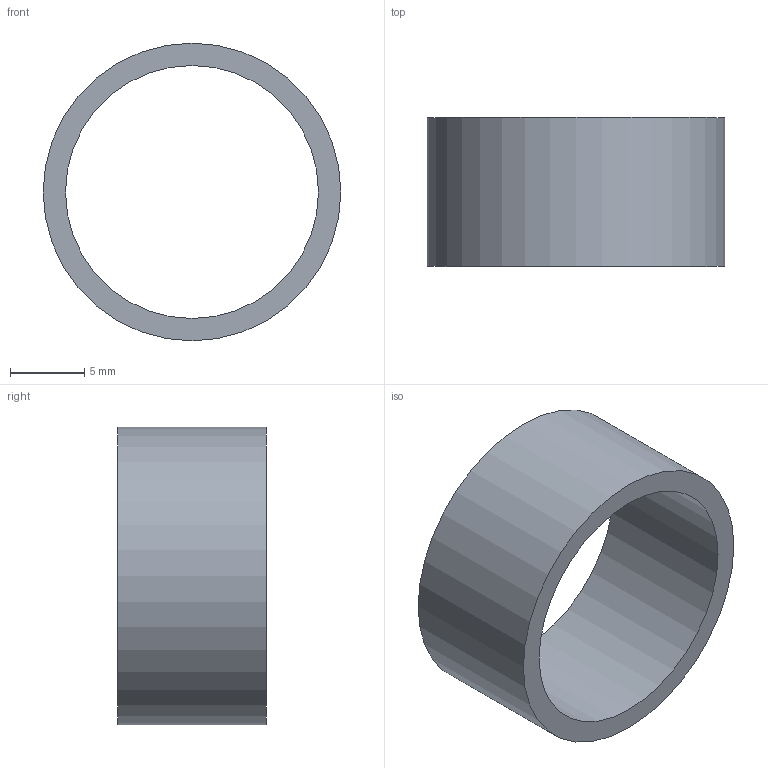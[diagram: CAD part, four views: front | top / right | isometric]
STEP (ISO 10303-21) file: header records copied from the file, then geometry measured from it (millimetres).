
FILE_DESCRIPTION(/* description */ (''),/* implementation_level */ '2;1');
FILE_NAME(/* name */ 'C:\Users\user\Documents\Inventor\Home Ventilator CPAP\Ring valve.stp',/* time_stamp */ '2020-04-03T13:38:48+02:00',/* author */ ('user'),/* organization */ (''),/* preprocessor_version */ 'ST-DEVELOPER v16.5',/* originating_system */ 'Autodesk Inventor 2017',/* authorisation */ '');
FILE_SCHEMA (('AUTOMOTIVE_DESIGN { 1 0 10303 214 3 1 1 }'));
Length unit declared in the file: millimetre
Products named in the file (1): Ring valve
Bounding box: 20 x 10 x 20 mm (x, y, z)
Volume: 871.8 mm3; surface area: 1336.7 mm2
Topology: 1 solids, 1 shells, 4 faces, 6 edges, 4 vertices
Faces by surface type: cylinder 2, plane 2
Full cylindrical faces by diameter (mm): 17 x1, 20 x1
Entity records: 129 total; most frequent: DIRECTION 18, CARTESIAN_POINT 13, AXIS2_PLACEMENT_3D 9, EDGE_LOOP 8, ORIENTED_EDGE 8, STYLED_ITEM 5, FACE_BOUND 4, FACE_OUTER_BOUND 4
